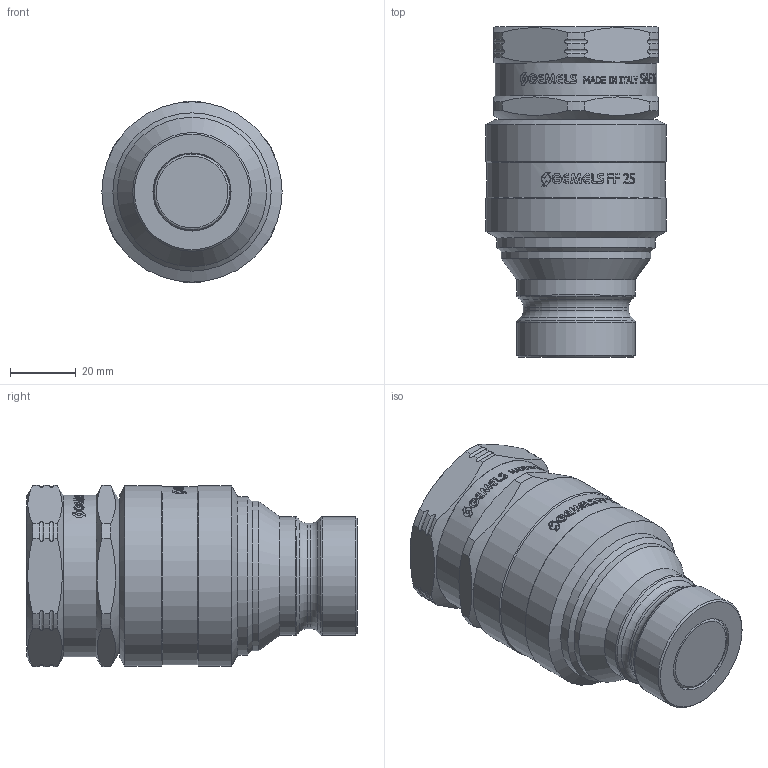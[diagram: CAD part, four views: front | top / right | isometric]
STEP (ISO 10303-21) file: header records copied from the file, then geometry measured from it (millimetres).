
FILE_DESCRIPTION(/* description */ (''),/* implementation_level */ '2;1');
FILE_NAME(/* name */ 'NC05S050002.stp',/* time_stamp */ '2024-11-19T13:00:58+01:00',/* author */ ('thomas.belotti'),/* organization */ (''),/* preprocessor_version */ 'ST-DEVELOPER v20',/* originating_system */ 'Autodesk Inventor 2024',/* authorisation */ '');
FILE_SCHEMA (('AUTOMOTIVE_DESIGN { 1 0 10303 214 3 1 1 }'));
Length unit declared in the file: millimetre
Products named in the file (1): Parte22
Bounding box: 54.7 x 100.2 x 54.99 mm (x, y, z)
Volume: 161358.2 mm3; surface area: 22866.2 mm2
Topology: 1 solids, 1 shells, 1126 faces, 3209 edges, 2133 vertices
Faces by surface type: bspline 721, plane 281, cylinder 89, torus 18, cone 17
Full cylindrical faces by diameter (mm): 23.55 x1, 23.7 x1, 31.26 x1, 31.5 x1, 31.9 x1, 35.5 x1, 36 x2, 45.3 x1, 46 x1, 46.3 x1, 48 x1, 49 x1, 54 x1, 54.7 x2
Entity records: 48988 total; most frequent: CARTESIAN_POINT 23239, ORIENTED_EDGE 6418, EDGE_CURVE 3209, DIRECTION 2906, VERTEX_POINT 2133, B_SPLINE_CURVE_WITH_KNOTS 1512, LINE 1252, VECTOR 1252
